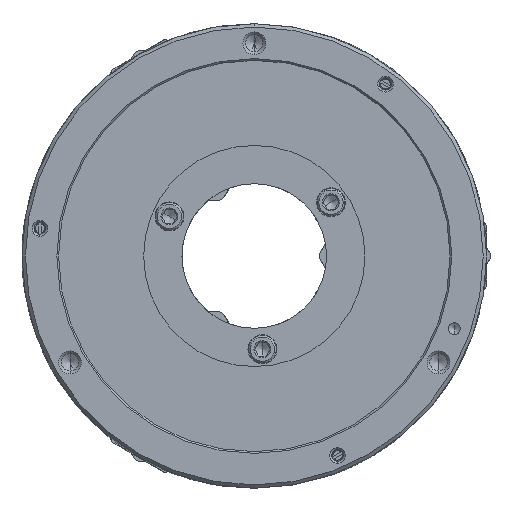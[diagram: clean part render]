
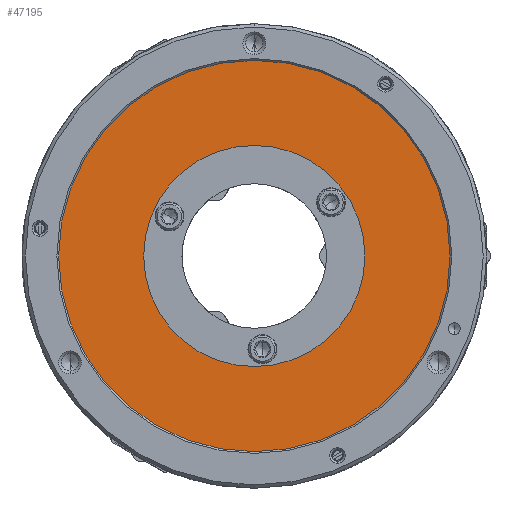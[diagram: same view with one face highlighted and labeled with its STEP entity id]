
A CAD part, left-side view. The second image highlights one B-rep face of the part: STEP entity #47195.
In plain terms, the highlighted planar face has unit normal (-1, 0, 0).
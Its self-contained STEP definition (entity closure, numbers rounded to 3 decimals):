
#913 = AXIS2_PLACEMENT_3D ( 'NONE', #32205, #25007, #19895 ) ;
#1459 = EDGE_CURVE ( 'NONE', #13700, #53615, #50027, .T. ) ;
#2118 = DIRECTION ( 'NONE',  ( 1., 0., 0. ) ) ;
#2548 = CARTESIAN_POINT ( 'NONE',  ( -79., 0., 0. ) ) ;
#7038 = AXIS2_PLACEMENT_3D ( 'NONE', #81352, #48083, #75013 ) ;
#8200 = CIRCLE ( 'NONE', #55352, 65. ) ;
#8451 = DIRECTION ( 'NONE',  ( 0., 0., -1. ) ) ;
#11202 = CARTESIAN_POINT ( 'NONE',  ( -79., 0., -115. ) ) ;
#13183 = PLANE ( 'NONE',  #913 ) ;
#13700 = VERTEX_POINT ( 'NONE', #74730 ) ;
#13897 = ORIENTED_EDGE ( 'NONE', *, *, #20897, .F. ) ;
#16285 = ORIENTED_EDGE ( 'NONE', *, *, #28383, .F. ) ;
#17688 = VERTEX_POINT ( 'NONE', #62151 ) ;
#18353 = DIRECTION ( 'NONE',  ( 0., 0., 1. ) ) ;
#19895 = DIRECTION ( 'NONE',  ( 0., 0., -1. ) ) ;
#20897 = EDGE_CURVE ( 'NONE', #26159, #17688, #43411, .T. ) ;
#25007 = DIRECTION ( 'NONE',  ( 1., 0., 0. ) ) ;
#26159 = VERTEX_POINT ( 'NONE', #11202 ) ;
#27547 = EDGE_LOOP ( 'NONE', ( #16285, #29393 ) ) ;
#28383 = EDGE_CURVE ( 'NONE', #53615, #13700, #8200, .T. ) ;
#29393 = ORIENTED_EDGE ( 'NONE', *, *, #1459, .F. ) ;
#29533 = CARTESIAN_POINT ( 'NONE',  ( -79., 0., 0. ) ) ;
#32205 = CARTESIAN_POINT ( 'NONE',  ( -79., 65., 0. ) ) ;
#37702 = FACE_BOUND ( 'NONE', #27547, .T. ) ;
#38531 = FACE_OUTER_BOUND ( 'NONE', #75294, .T. ) ;
#40652 = AXIS2_PLACEMENT_3D ( 'NONE', #70216, #58375, #18353 ) ;
#41189 = EDGE_CURVE ( 'NONE', #17688, #26159, #48265, .T. ) ;
#43411 = CIRCLE ( 'NONE', #7038, 115. ) ;
#44132 = ORIENTED_EDGE ( 'NONE', *, *, #41189, .F. ) ;
#47195 = ADVANCED_FACE ( 'NONE', ( #37702, #38531 ), #13183, .F. ) ;
#48083 = DIRECTION ( 'NONE',  ( 1., 0., 0. ) ) ;
#48265 = CIRCLE ( 'NONE', #60351, 115. ) ;
#49347 = DIRECTION ( 'NONE',  ( -1., 0., 0. ) ) ;
#50027 = CIRCLE ( 'NONE', #40652, 65. ) ;
#50835 = CARTESIAN_POINT ( 'NONE',  ( -79., 0., 65. ) ) ;
#53615 = VERTEX_POINT ( 'NONE', #50835 ) ;
#55352 = AXIS2_PLACEMENT_3D ( 'NONE', #29533, #49347, #69126 ) ;
#58375 = DIRECTION ( 'NONE',  ( -1., 0., 0. ) ) ;
#60351 = AXIS2_PLACEMENT_3D ( 'NONE', #2548, #2118, #8451 ) ;
#62151 = CARTESIAN_POINT ( 'NONE',  ( -79., 0., 115. ) ) ;
#69126 = DIRECTION ( 'NONE',  ( 0., 0., 1. ) ) ;
#70216 = CARTESIAN_POINT ( 'NONE',  ( -79., 0., 0. ) ) ;
#74730 = CARTESIAN_POINT ( 'NONE',  ( -79., 0., -65. ) ) ;
#75013 = DIRECTION ( 'NONE',  ( 0., 0., -1. ) ) ;
#75294 = EDGE_LOOP ( 'NONE', ( #13897, #44132 ) ) ;
#81352 = CARTESIAN_POINT ( 'NONE',  ( -79., 0., 0. ) ) ;
